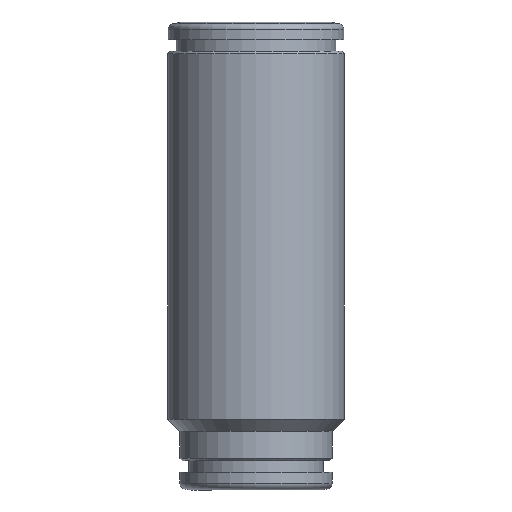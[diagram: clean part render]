
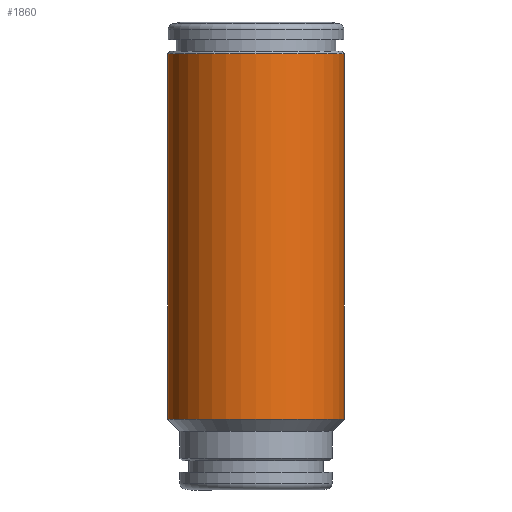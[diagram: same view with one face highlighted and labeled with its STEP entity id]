
A CAD part, front view. The second image highlights one B-rep face of the part: STEP entity #1860.
In plain terms, the highlighted cylindrical face has radius 7.55 mm (diameter 15.1 mm), a full revolution.
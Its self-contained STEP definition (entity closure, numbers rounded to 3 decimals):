
#1860=ADVANCED_FACE('', (#1870,#1880), #1890, .T.);
#5040=AXIS2_PLACEMENT_3D('Ax2Pl3d', #5050, #5060, #5070);
#5800=AXIS2_PLACEMENT_3D('Ax2Pl3d', #5810, #5820, #5830);
#5840=AXIS2_PLACEMENT_3D('Ax2Pl3d', #5850, #5860, #5870);
#5050=CARTESIAN_POINT('HicPkt', (10.709,11.315,
10.625));
#6540=CARTESIAN_POINT('', (18.259,11.315,10.625));
#5810=CARTESIAN_POINT('HicPkt', (10.709,11.315,
41.875));
#5850=CARTESIAN_POINT('HicPkt', (10.709,11.315,
41.875));
#6640=CARTESIAN_POINT('', (3.159,11.315,41.875));
#7020=CIRCLE('Circle', #5040, 7.55);
#7120=CIRCLE('Circle', #5840, 7.55);
#1890=CYLINDRICAL_SURFACE('Zyl', #5800, 7.55);
#5060=DIRECTION('Axis', (0.,0.,1.));
#5070=DIRECTION('RefDirection', (1.,0.,-0.));
#5820=DIRECTION('Axis', (0.,0.,-1.));
#5830=DIRECTION('RefDirection', (-1.,-0.,0.));
#5860=DIRECTION('Axis', (0.,0.,1.));
#5870=DIRECTION('RefDirection', (1.,0.,-0.));
#9440=EDGE_CURVE('', #9450, #9450, #7020, .T.);
#9640=EDGE_CURVE('', #9650, #9650, #7120, .T.);
#11420=EDGE_LOOP('Edge_loop', (#11430));
#11440=EDGE_LOOP('Edge_loop', (#11450));
#1880=FACE_BOUND('', #11440, .T.);
#1870=FACE_OUTER_BOUND('Face_outer_bound', #11420, .T.);
#11430=ORIENTED_EDGE('', *, *, #9440, .T.);
#11450=ORIENTED_EDGE('', *, *, #9640, .F.);
#9450=VERTEX_POINT('', #6540);
#9650=VERTEX_POINT('', #6640);
